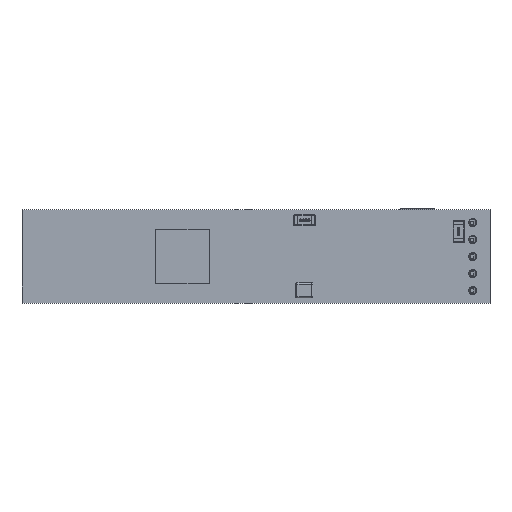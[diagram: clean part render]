
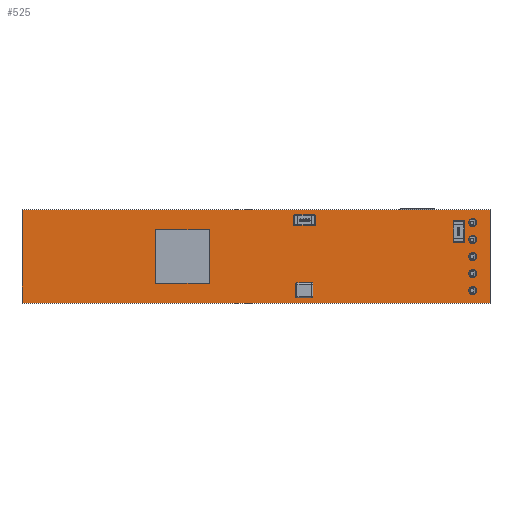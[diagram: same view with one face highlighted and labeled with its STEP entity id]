
A CAD part, top view. The second image highlights one B-rep face of the part: STEP entity #525.
In plain terms, the highlighted planar face has unit normal (0, 0, 1).
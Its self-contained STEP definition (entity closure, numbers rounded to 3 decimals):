
#216 = VERTEX_POINT('',#217);
#217 = CARTESIAN_POINT('',(-17.13,-1.277,1.123));
#223 = EDGE_CURVE('',#216,#224,#226,.T.);
#224 = VERTEX_POINT('',#225);
#225 = CARTESIAN_POINT('',(17.87,-1.277,1.123));
#226 = LINE('',#227,#228);
#227 = CARTESIAN_POINT('',(-17.13,-1.277,1.123));
#228 = VECTOR('',#229,1.);
#229 = DIRECTION('',(1.,0.,0.));
#254 = EDGE_CURVE('',#224,#255,#257,.T.);
#255 = VERTEX_POINT('',#256);
#256 = CARTESIAN_POINT('',(17.87,5.723,1.123));
#257 = LINE('',#258,#259);
#258 = CARTESIAN_POINT('',(17.87,-1.277,1.123));
#259 = VECTOR('',#260,1.);
#260 = DIRECTION('',(0.,1.,0.));
#285 = EDGE_CURVE('',#255,#286,#288,.T.);
#286 = VERTEX_POINT('',#287);
#287 = CARTESIAN_POINT('',(-17.13,5.723,1.123));
#288 = LINE('',#289,#290);
#289 = CARTESIAN_POINT('',(17.87,5.723,1.123));
#290 = VECTOR('',#291,1.);
#291 = DIRECTION('',(-1.,0.,0.));
#316 = EDGE_CURVE('',#286,#216,#317,.T.);
#317 = LINE('',#318,#319);
#318 = CARTESIAN_POINT('',(-17.13,5.723,1.123));
#319 = VECTOR('',#320,1.);
#320 = DIRECTION('',(0.,-1.,0.));
#340 = VERTEX_POINT('',#341);
#341 = CARTESIAN_POINT('',(16.88,2.203,1.123));
#347 = EDGE_CURVE('',#340,#340,#348,.T.);
#348 = CIRCLE('',#349,0.3);
#349 = AXIS2_PLACEMENT_3D('',#350,#351,#352);
#350 = CARTESIAN_POINT('',(16.58,2.203,1.123));
#351 = DIRECTION('',(0.,0.,1.));
#352 = DIRECTION('',(1.,0.,0.));
#373 = VERTEX_POINT('',#374);
#374 = CARTESIAN_POINT('',(16.88,3.473,1.123));
#380 = EDGE_CURVE('',#373,#373,#381,.T.);
#381 = CIRCLE('',#382,0.3);
#382 = AXIS2_PLACEMENT_3D('',#383,#384,#385);
#383 = CARTESIAN_POINT('',(16.58,3.473,1.123));
#384 = DIRECTION('',(0.,0.,1.));
#385 = DIRECTION('',(1.,0.,0.));
#406 = VERTEX_POINT('',#407);
#407 = CARTESIAN_POINT('',(16.88,-0.337,1.123));
#413 = EDGE_CURVE('',#406,#406,#414,.T.);
#414 = CIRCLE('',#415,0.3);
#415 = AXIS2_PLACEMENT_3D('',#416,#417,#418);
#416 = CARTESIAN_POINT('',(16.58,-0.337,1.123));
#417 = DIRECTION('',(0.,0.,1.));
#418 = DIRECTION('',(1.,0.,0.));
#439 = VERTEX_POINT('',#440);
#440 = CARTESIAN_POINT('',(16.88,4.743,1.123));
#446 = EDGE_CURVE('',#439,#439,#447,.T.);
#447 = CIRCLE('',#448,0.3);
#448 = AXIS2_PLACEMENT_3D('',#449,#450,#451);
#449 = CARTESIAN_POINT('',(16.58,4.743,1.123));
#450 = DIRECTION('',(0.,0.,1.));
#451 = DIRECTION('',(1.,0.,0.));
#472 = VERTEX_POINT('',#473);
#473 = CARTESIAN_POINT('',(16.88,0.933,1.123));
#479 = EDGE_CURVE('',#472,#472,#480,.T.);
#480 = CIRCLE('',#481,0.3);
#481 = AXIS2_PLACEMENT_3D('',#482,#483,#484);
#482 = CARTESIAN_POINT('',(16.58,0.933,1.123));
#483 = DIRECTION('',(0.,0.,1.));
#484 = DIRECTION('',(1.,0.,0.));
#525 = ADVANCED_FACE('',(#526,#532,#535,#538,#541,#544),#547,.F.);
#526 = FACE_BOUND('',#527,.T.);
#527 = EDGE_LOOP('',(#528,#529,#530,#531));
#528 = ORIENTED_EDGE('',*,*,#223,.T.);
#529 = ORIENTED_EDGE('',*,*,#254,.T.);
#530 = ORIENTED_EDGE('',*,*,#285,.T.);
#531 = ORIENTED_EDGE('',*,*,#316,.T.);
#532 = FACE_BOUND('',#533,.F.);
#533 = EDGE_LOOP('',(#534));
#534 = ORIENTED_EDGE('',*,*,#347,.T.);
#535 = FACE_BOUND('',#536,.F.);
#536 = EDGE_LOOP('',(#537));
#537 = ORIENTED_EDGE('',*,*,#380,.T.);
#538 = FACE_BOUND('',#539,.F.);
#539 = EDGE_LOOP('',(#540));
#540 = ORIENTED_EDGE('',*,*,#413,.T.);
#541 = FACE_BOUND('',#542,.F.);
#542 = EDGE_LOOP('',(#543));
#543 = ORIENTED_EDGE('',*,*,#446,.T.);
#544 = FACE_BOUND('',#545,.F.);
#545 = EDGE_LOOP('',(#546));
#546 = ORIENTED_EDGE('',*,*,#479,.T.);
#547 = PLANE('',#548);
#548 = AXIS2_PLACEMENT_3D('',#549,#550,#551);
#549 = CARTESIAN_POINT('',(-17.13,-1.277,1.123));
#550 = DIRECTION('',(0.,0.,-1.));
#551 = DIRECTION('',(-1.,0.,0.));
